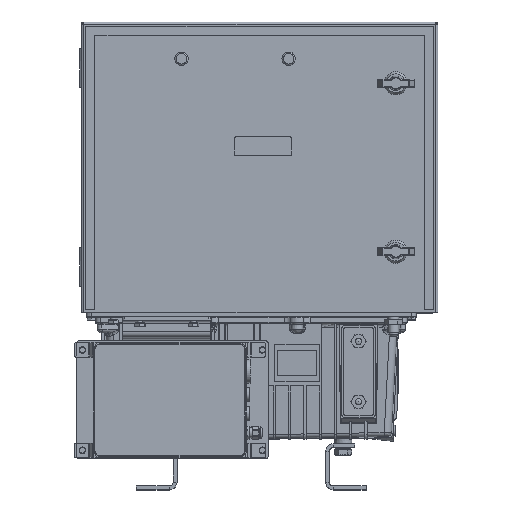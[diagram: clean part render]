
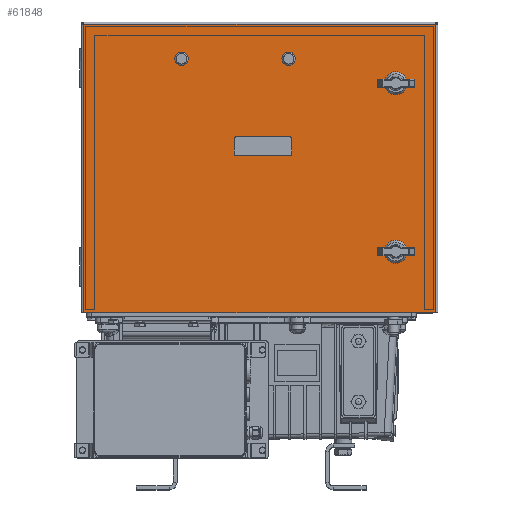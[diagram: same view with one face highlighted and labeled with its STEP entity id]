
A CAD part, top view. The second image highlights one B-rep face of the part: STEP entity #61848.
In plain terms, the highlighted planar face has unit normal (0, 0, 1).
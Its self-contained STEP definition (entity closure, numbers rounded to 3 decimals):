
#6114=FACE_BOUND('',#13347,.T.);
#6115=FACE_BOUND('',#13348,.T.);
#6116=FACE_BOUND('',#13349,.T.);
#6117=FACE_BOUND('',#13350,.T.);
#6118=FACE_BOUND('',#13351,.T.);
#6693=CIRCLE('',#65206,2.5);
#6694=CIRCLE('',#65209,2.5);
#6695=CIRCLE('',#65212,2.5);
#6696=CIRCLE('',#65215,2.5);
#6813=CIRCLE('',#65421,8.763);
#6818=CIRCLE('',#65431,8.763);
#6950=CIRCLE('',#65686,15.);
#7081=CIRCLE('',#65939,15.);
#9797=FACE_OUTER_BOUND('',#13346,.T.);
#13346=EDGE_LOOP('',(#45064,#45065,#45066,#45067));
#13347=EDGE_LOOP('',(#45068,#45069,#45070,#45071,#45072,#45073,#45074,#45075));
#13348=EDGE_LOOP('',(#45076));
#13349=EDGE_LOOP('',(#45077));
#13350=EDGE_LOOP('',(#45078));
#13351=EDGE_LOOP('',(#45079));
#16246=LINE('',#90500,#21371);
#16249=LINE('',#90508,#21374);
#16252=LINE('',#90516,#21377);
#16255=LINE('',#90523,#21380);
#16649=LINE('',#94743,#21774);
#16650=LINE('',#94745,#21775);
#16651=LINE('',#94747,#21776);
#16652=LINE('',#94748,#21777);
#21371=VECTOR('',#72606,20.);
#21374=VECTOR('',#72615,70.);
#21377=VECTOR('',#72624,20.);
#21380=VECTOR('',#72633,70.);
#21774=VECTOR('',#74623,459.65);
#21775=VECTOR('',#74624,376.825);
#21776=VECTOR('',#74625,459.65);
#21777=VECTOR('',#74626,376.825);
#26875=VERTEX_POINT('',#90493);
#26876=VERTEX_POINT('',#90495);
#26877=VERTEX_POINT('',#90499);
#26878=VERTEX_POINT('',#90503);
#26879=VERTEX_POINT('',#90507);
#26880=VERTEX_POINT('',#90511);
#26881=VERTEX_POINT('',#90515);
#26882=VERTEX_POINT('',#90519);
#27076=VERTEX_POINT('',#91795);
#27081=VERTEX_POINT('',#91810);
#27265=VERTEX_POINT('',#93117);
#27448=VERTEX_POINT('',#94421);
#27561=VERTEX_POINT('',#94741);
#27562=VERTEX_POINT('',#94742);
#27563=VERTEX_POINT('',#94744);
#27564=VERTEX_POINT('',#94746);
#33010=EDGE_CURVE('',#26876,#26875,#6693,.T.);
#33012=EDGE_CURVE('',#26877,#26876,#16246,.T.);
#33014=EDGE_CURVE('',#26878,#26877,#6694,.T.);
#33016=EDGE_CURVE('',#26879,#26878,#16249,.T.);
#33018=EDGE_CURVE('',#26880,#26879,#6695,.T.);
#33020=EDGE_CURVE('',#26881,#26880,#16252,.T.);
#33022=EDGE_CURVE('',#26882,#26881,#6696,.T.);
#33024=EDGE_CURVE('',#26875,#26882,#16255,.T.);
#33306=EDGE_CURVE('',#27076,#27076,#6813,.T.);
#33311=EDGE_CURVE('',#27081,#27081,#6818,.T.);
#33603=EDGE_CURVE('',#27265,#27265,#6950,.T.);
#33894=EDGE_CURVE('',#27448,#27448,#7081,.T.);
#34055=EDGE_CURVE('',#27561,#27562,#16649,.T.);
#34056=EDGE_CURVE('',#27562,#27563,#16650,.T.);
#34057=EDGE_CURVE('',#27564,#27563,#16651,.T.);
#34058=EDGE_CURVE('',#27564,#27561,#16652,.T.);
#45064=ORIENTED_EDGE('',*,*,#34055,.T.);
#45065=ORIENTED_EDGE('',*,*,#34056,.T.);
#45066=ORIENTED_EDGE('',*,*,#34057,.F.);
#45067=ORIENTED_EDGE('',*,*,#34058,.T.);
#45068=ORIENTED_EDGE('',*,*,#33010,.T.);
#45069=ORIENTED_EDGE('',*,*,#33024,.T.);
#45070=ORIENTED_EDGE('',*,*,#33022,.T.);
#45071=ORIENTED_EDGE('',*,*,#33020,.T.);
#45072=ORIENTED_EDGE('',*,*,#33018,.T.);
#45073=ORIENTED_EDGE('',*,*,#33016,.T.);
#45074=ORIENTED_EDGE('',*,*,#33014,.T.);
#45075=ORIENTED_EDGE('',*,*,#33012,.T.);
#45076=ORIENTED_EDGE('',*,*,#33306,.T.);
#45077=ORIENTED_EDGE('',*,*,#33311,.T.);
#45078=ORIENTED_EDGE('',*,*,#33603,.T.);
#45079=ORIENTED_EDGE('',*,*,#33894,.T.);
#59344=PLANE('',#66014);
#61848=ADVANCED_FACE('',(#9797,#6114,#6115,#6116,#6117,#6118),#59344,.T.);
#65206=AXIS2_PLACEMENT_3D('',#90496,#72601,#72602);
#65209=AXIS2_PLACEMENT_3D('',#90504,#72610,#72611);
#65212=AXIS2_PLACEMENT_3D('',#90512,#72619,#72620);
#65215=AXIS2_PLACEMENT_3D('',#90520,#72628,#72629);
#65421=AXIS2_PLACEMENT_3D('',#91796,#73168,#73169);
#65431=AXIS2_PLACEMENT_3D('',#91811,#73188,#73189);
#65686=AXIS2_PLACEMENT_3D('',#93118,#73766,#73767);
#65939=AXIS2_PLACEMENT_3D('',#94422,#74340,#74341);
#66014=AXIS2_PLACEMENT_3D('',#94740,#74621,#74622);
#72601=DIRECTION('center_axis',(0.,0.,
-1.));
#72602=DIRECTION('ref_axis',(0.,-1.,0.));
#72606=DIRECTION('',(0.,1.,0.));
#72610=DIRECTION('center_axis',(0.,0.,
-1.));
#72611=DIRECTION('ref_axis',(1.,0.,0.));
#72615=DIRECTION('',(-1.,0.,0.));
#72619=DIRECTION('center_axis',(0.,0.,
-1.));
#72620=DIRECTION('ref_axis',(0.,1.,0.));
#72624=DIRECTION('',(0.,-1.,0.));
#72628=DIRECTION('center_axis',(0.,0.,
-1.));
#72629=DIRECTION('ref_axis',(-1.,0.,0.));
#72633=DIRECTION('',(1.,0.,0.));
#73168=DIRECTION('center_axis',(0.,0.,
-1.));
#73169=DIRECTION('ref_axis',(-1.,0.,0.));
#73188=DIRECTION('center_axis',(0.,0.,
-1.));
#73189=DIRECTION('ref_axis',(-1.,0.,0.));
#73766=DIRECTION('center_axis',(0.,0.,
-1.));
#73767=DIRECTION('ref_axis',(1.,0.,0.));
#74340=DIRECTION('center_axis',(0.,0.,
-1.));
#74341=DIRECTION('ref_axis',(1.,0.,0.));
#74621=DIRECTION('center_axis',(0.,0.,
1.));
#74622=DIRECTION('ref_axis',(-1.,0.,0.));
#74623=DIRECTION('',(-1.,0.,0.));
#74624=DIRECTION('',(0.,-1.,0.));
#74625=DIRECTION('',(-1.,0.,0.));
#74626=DIRECTION('',(0.,1.,0.));
#90493=CARTESIAN_POINT('',(-35.023,148.483,136.89));
#90495=CARTESIAN_POINT('',(-37.523,145.983,136.89));
#90496=CARTESIAN_POINT('Origin',(-35.023,145.983,136.89));
#90499=CARTESIAN_POINT('',(-37.523,125.983,136.89));
#90500=CARTESIAN_POINT('',(-37.523,117.233,136.89));
#90503=CARTESIAN_POINT('',(-35.023,123.483,136.89));
#90504=CARTESIAN_POINT('Origin',(-35.023,125.983,136.89));
#90507=CARTESIAN_POINT('',(34.977,123.483,136.89));
#90508=CARTESIAN_POINT('',(15.227,123.483,136.89));
#90511=CARTESIAN_POINT('',(37.477,125.983,136.89));
#90512=CARTESIAN_POINT('Origin',(34.977,125.983,136.89));
#90515=CARTESIAN_POINT('',(37.477,145.983,136.89));
#90516=CARTESIAN_POINT('',(37.477,127.233,136.89));
#90519=CARTESIAN_POINT('',(34.977,148.483,136.89));
#90520=CARTESIAN_POINT('Origin',(34.977,145.983,136.89));
#90523=CARTESIAN_POINT('',(-19.773,148.483,136.89));
#91795=CARTESIAN_POINT('',(42.24,250.483,136.89));
#91796=CARTESIAN_POINT('Origin',(33.477,250.483,136.89));
#91810=CARTESIAN_POINT('',(-97.76,250.483,136.89));
#91811=CARTESIAN_POINT('Origin',(-106.523,250.483,136.89));
#93117=CARTESIAN_POINT('',(188.477,-1.517,136.89));
#93118=CARTESIAN_POINT('Origin',(173.477,-1.517,136.89));
#94421=CARTESIAN_POINT('',(188.477,218.483,136.89));
#94422=CARTESIAN_POINT('Origin',(173.477,218.483,136.89));
#94740=CARTESIAN_POINT('Origin',(-4.523,108.483,136.89));
#94741=CARTESIAN_POINT('',(225.302,295.308,136.89));
#94742=CARTESIAN_POINT('',(-234.348,295.308,136.89));
#94743=CARTESIAN_POINT('',(-119.436,295.308,136.89));
#94744=CARTESIAN_POINT('',(-234.348,-81.517,136.89));
#94745=CARTESIAN_POINT('',(-234.348,203.483,136.89));
#94746=CARTESIAN_POINT('',(225.302,-81.517,136.89));
#94747=CARTESIAN_POINT('',(-237.523,-81.517,136.89));
#94748=CARTESIAN_POINT('',(225.302,203.483,136.89));
